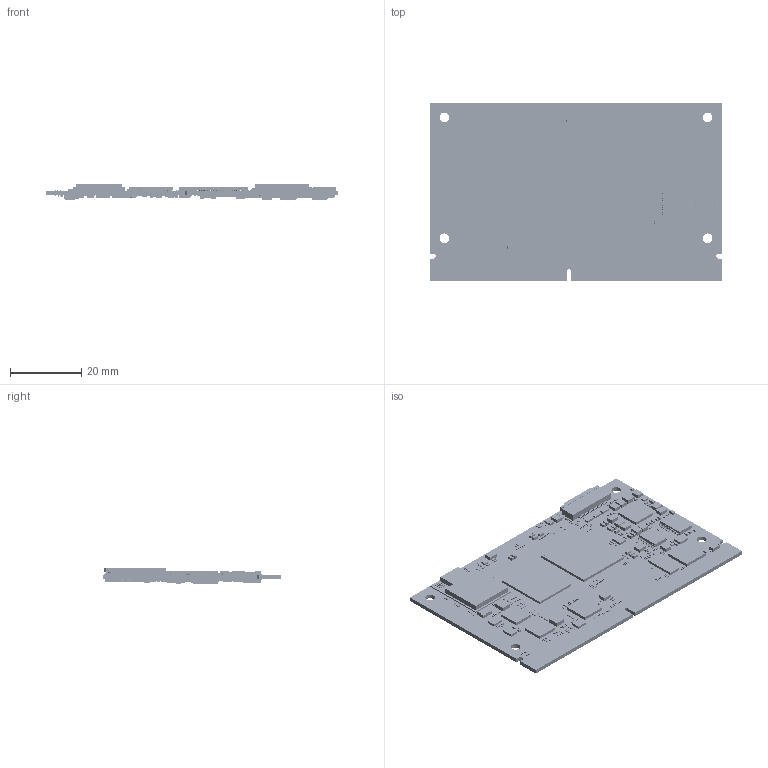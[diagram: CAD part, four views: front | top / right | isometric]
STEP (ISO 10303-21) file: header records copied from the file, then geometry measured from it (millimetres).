
FILE_DESCRIPTION((''),'2;1');
FILE_NAME('MYC-JR3576_V11-20260731_ASM','2026-08-11T13:59:59',('MYIR'),(''),'CREO PARAMETRIC BY PTC INC, 2026092','CREO PARAMETRIC BY PTC INC, 2026092','');
FILE_SCHEMA(('AUTOMOTIVE_DESIGN { 1 0 10303 214 1 1 1 1 }'));
Products named in the file (111): MYC-JR3576_V11-20260731; 20401-00096; 20401-00077; 20201-00023; 20301-80528; 20301-80515; 20102-00226; 20107-00054; C0603; C0402; R0402; 20103-00124; C0201; 20401-80342; 21106-00037; 20501-00068; 20301-80883; 20301-80524; 20301-00344; 20301-80433; 20107-00108; 20114-00016; 20902-00010; 20401-00109; 20401-00104; 20401-80445; 20401-00101; 20401-00102; 20401-80385; 20401-00108; 20401-00099; 20401-80384; 20401-00111; 20401-00079; 20401-00107; 20401-80104; 20401-80295; 20701-00053; 20501-00026; 20301-00205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
Assembly tree (910 placements, depth 2):
  MYC-JR3576_V11-20260731_ASM
    MYC-JR3576_V11-20260731
    20401-00096  x8
    20401-00077  x6
    20201-00023
    20301-80528
    20301-80515  x2
    20102-00226
    20107-00054
    C0603  x13
    C0402  x5
    R0402  x7
    20103-00124
    C0201  x25
    20401-80342  x2
    21106-00037
    20501-00068  x4
    20301-80883
    20301-80524  x23
    20301-00344  x9
    20301-80433
    20107-00108  x2
    20114-00016  x3
    20902-00010
    20401-00109  x178
    20401-00104  x49
    20401-80445  x15
    20401-00101  x8
    20401-00102  x6
    20401-80385  x2
    20401-00108  x11
    20401-00099  x32
    20401-80384  x2
    20401-00111  x12
    20401-00079  x45
    20401-00107  x10
    20401-80104
    20401-80295  x6
    20701-00053  x2
    20501-00026  x12
    20301-00205
    20301-00264  x3
    20301-00191  x4
    20301-80673  x49
    R0201  x59
    20301-80390  x3
    20301-80670  x69
    20301-80671  x25
    20301-80580  x16
    20301-80394  x5
    20301-00201  x2
    20301-80650  x15
    20301-00285  x3
    20301-00306
    20301-80531  x2
    20301-00280
    20101-00097
    20116-00007
    20107-00050
    20103-00147  x3
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Bounding box: 82 x 50 x 4.76 mm (x, y, z)
Volume: 6669.7 mm3; surface area: 14641 mm2
Topology: 925 solids, 933 shells, 19969 faces, 69487 edges, 54242 vertices
Faces by surface type: plane 17060, sphere 2348, cylinder 561
Entity records: 444511 total; most frequent: DIRECTION 65844, CARTESIAN_POINT 59719, ORIENTED_EDGE 37134, VECTOR 23949, LINE 23949, AXIS2_PLACEMENT_3D 20781, PRESENTATION_STYLE_ASSIGNMENT 20075, STYLED_ITEM 20075
